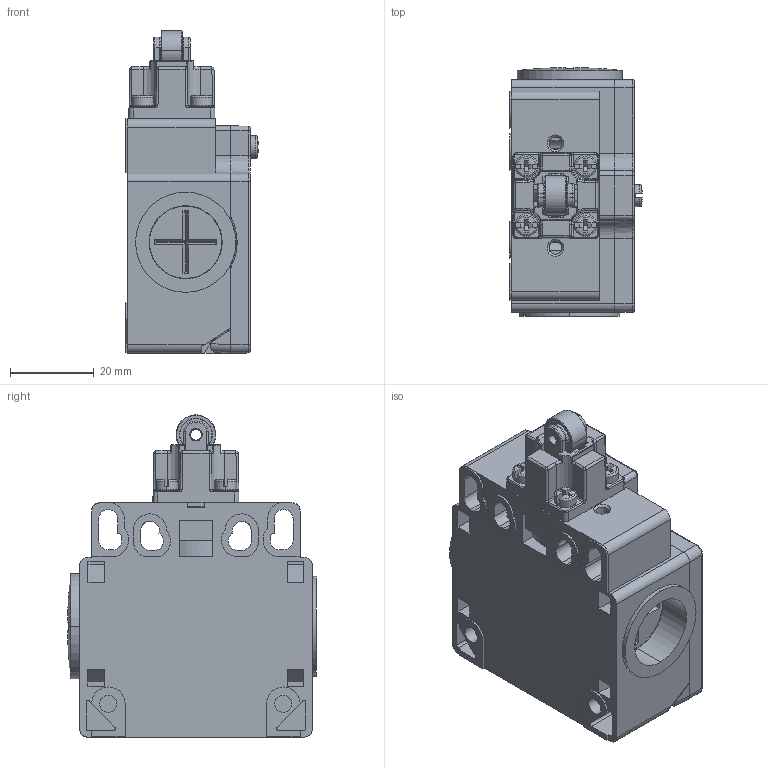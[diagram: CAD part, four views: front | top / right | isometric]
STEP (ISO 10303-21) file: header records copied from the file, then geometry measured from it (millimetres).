
FILE_DESCRIPTION(/* description */ (''),/* implementation_level */ '2;1');
FILE_NAME(/* name */ 'C4N-8132.stp',/* time_stamp */ '2024-03-09T15:55:05+08:00',/* author */ (''),/* organization */ (''),/* preprocessor_version */ 'ST-DEVELOPER v16.7',/* originating_system */ 'SIEMENS PLM Software NX 12.0',/* authorisation */ '');
FILE_SCHEMA (('AUTOMOTIVE_DESIGN { 1 0 10303 214 3 1 1 1 }'));
Products named in the file (1): Admi0D500F52uyk4
Bounding box: 31.73 x 59.57 x 77.16 mm (x, y, z)
Volume: 37651 mm3; surface area: 42357.5 mm2
Topology: 18 solids, 18 shells, 1749 faces, 4597 edges, 2932 vertices
Faces by surface type: plane 927, cylinder 420, cone 141, bspline 120, torus 91, sphere 42, extrusion 8
Full cylindrical faces by diameter (mm): 2.09 x1, 2.5 x2, 2.6 x4, 2.647 x1, 3 x1, 3.05 x2, 4.1 x2, 4.6 x1, 6 x4, 7.4 x1, 8.6 x1, 11.2 x1, 14.7 x1, 21.3 x2
Entity records: 62727 total; most frequent: CARTESIAN_POINT 19983, ORIENTED_EDGE 9060, DIRECTION 8464, EDGE_CURVE 4530, VERTEX_POINT 2909, AXIS2_PLACEMENT_3D 2881, VECTOR 2702, LINE 2694
